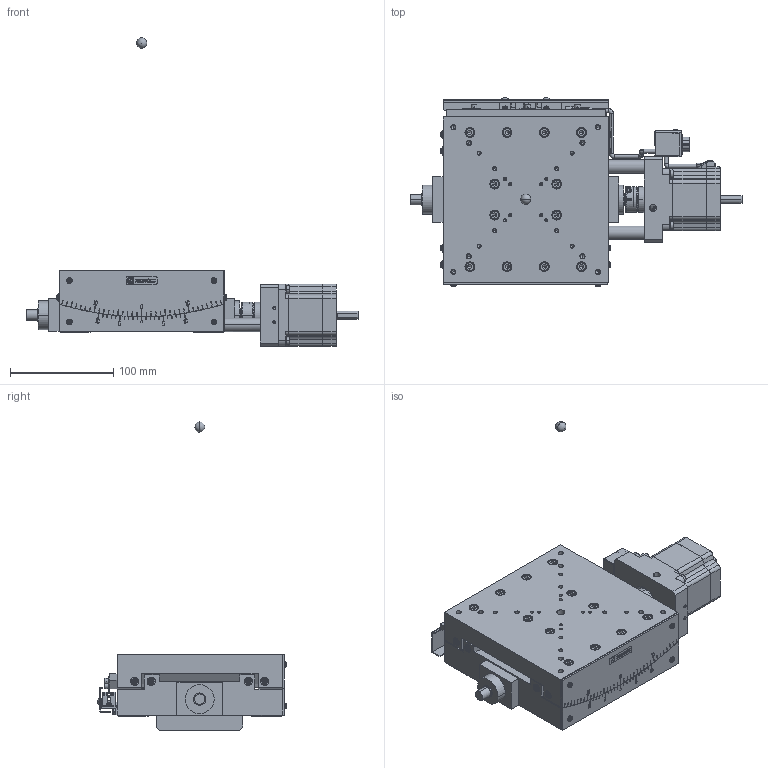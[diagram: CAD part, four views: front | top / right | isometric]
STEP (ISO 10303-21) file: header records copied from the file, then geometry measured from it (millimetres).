
FILE_DESCRIPTION (( 'STEP AP203' ), '1' );
FILE_NAME ('SA16A-RT01.STEP', '2019-02-20T06:40:32', ( '' ), ( '' ), 'SwSTEP 2.0', 'SolidWorks 2018', '' );
FILE_SCHEMA (( 'CONFIG_CONTROL_DESIGN' ));
Length unit declared in the file: millimetre
Products named in the file (4): base; rotation center; SA16A-RT01; table
Assembly tree (3 placements, depth 2):
  SA16A-RT01
    base
    table
    rotation center
Bounding box: 321.5 x 182.87 x 298.5 mm (x, y, z)
Volume: 1765699.5 mm3; surface area: 244807.2 mm2
Topology: 3 solids, 3 shells, 2875 faces, 7245 edges, 4497 vertices
Faces by surface type: plane 1738, cylinder 701, cone 328, torus 62, sphere 42, bspline 4
Entity records: 86576 total; most frequent: CARTESIAN_POINT 16163, DIRECTION 15052, ORIENTED_EDGE 14252, EDGE_CURVE 7126, AXIS2_PLACEMENT_3D 5201, LINE 4650, VECTOR 4650, VERTEX_POINT 4494
